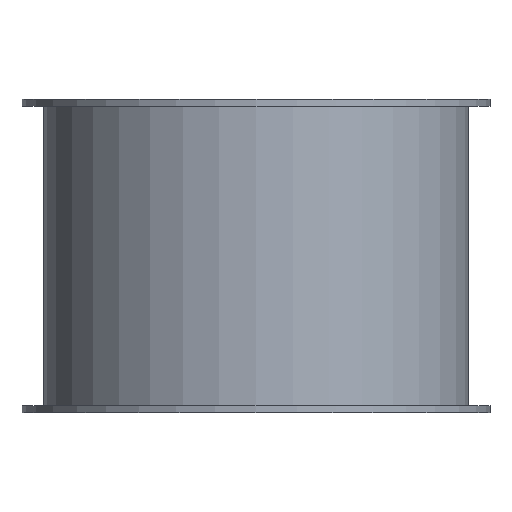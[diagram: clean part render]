
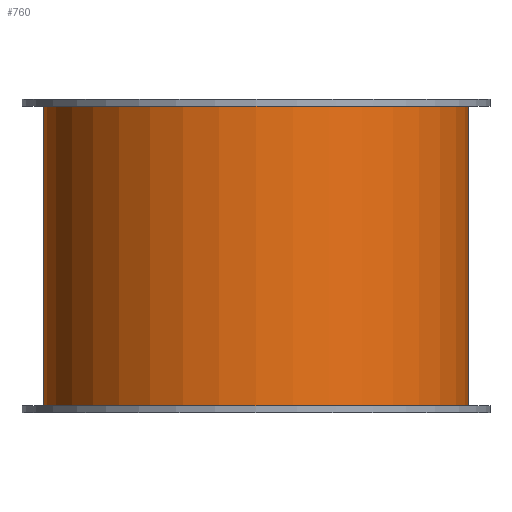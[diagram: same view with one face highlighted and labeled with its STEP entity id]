
A CAD part, front view. The second image highlights one B-rep face of the part: STEP entity #760.
In plain terms, the highlighted cylindrical face has radius 29.8 mm (diameter 59.6 mm), a partial arc.
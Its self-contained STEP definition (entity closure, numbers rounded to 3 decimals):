
#54 = DIRECTION ( 'NONE',  ( 0., 0., 1. ) ) ;
#68 = LINE ( 'NONE', #451, #394 ) ;
#101 = CIRCLE ( 'NONE', #604, 29.8 ) ;
#115 = EDGE_CURVE ( 'NONE', #670, #1214, #1227, .T. ) ;
#191 = VERTEX_POINT ( 'NONE', #749 ) ;
#197 = ORIENTED_EDGE ( 'NONE', *, *, #547, .F. ) ;
#253 = DIRECTION ( 'NONE',  ( 1., 0., 0. ) ) ;
#290 = ORIENTED_EDGE ( 'NONE', *, *, #1109, .F. ) ;
#394 = VECTOR ( 'NONE', #834, 1000. ) ;
#405 = CARTESIAN_POINT ( 'NONE',  ( 0., 0., 0. ) ) ;
#424 = LINE ( 'NONE', #1199, #862 ) ;
#427 = DIRECTION ( 'NONE',  ( -1., 0., 0. ) ) ;
#451 = CARTESIAN_POINT ( 'NONE',  ( 29.8, 0., -32. ) ) ;
#474 = CARTESIAN_POINT ( 'NONE',  ( 29.8, 0., 0. ) ) ;
#510 = DIRECTION ( 'NONE',  ( 1., 0., 0. ) ) ;
#514 = DIRECTION ( 'NONE',  ( 0., 0., -1. ) ) ;
#547 = EDGE_CURVE ( 'NONE', #191, #1012, #101, .T. ) ;
#560 = DIRECTION ( 'NONE',  ( 0., 0., 1. ) ) ;
#604 = AXIS2_PLACEMENT_3D ( 'NONE', #993, #514, #427 ) ;
#670 = VERTEX_POINT ( 'NONE', #1071 ) ;
#687 = AXIS2_PLACEMENT_3D ( 'NONE', #737, #560, #253 ) ;
#691 = EDGE_LOOP ( 'NONE', ( #290, #197, #935, #1077 ) ) ;
#737 = CARTESIAN_POINT ( 'NONE',  ( 0., 0., -32. ) ) ;
#749 = CARTESIAN_POINT ( 'NONE',  ( 29.8, 0., -42. ) ) ;
#751 = FACE_OUTER_BOUND ( 'NONE', #691, .T. ) ;
#760 = ADVANCED_FACE ( 'NONE', ( #751 ), #1030, .T. ) ;
#834 = DIRECTION ( 'NONE',  ( 0., 0., 1. ) ) ;
#862 = VECTOR ( 'NONE', #54, 1000. ) ;
#935 = ORIENTED_EDGE ( 'NONE', *, *, #1243, .T. ) ;
#978 = AXIS2_PLACEMENT_3D ( 'NONE', #405, #1088, #510 ) ;
#993 = CARTESIAN_POINT ( 'NONE',  ( 0., 0., -42. ) ) ;
#1012 = VERTEX_POINT ( 'NONE', #1123 ) ;
#1030 = CYLINDRICAL_SURFACE ( 'NONE', #687, 29.8 ) ;
#1071 = CARTESIAN_POINT ( 'NONE',  ( -29.8, 0., 0. ) ) ;
#1077 = ORIENTED_EDGE ( 'NONE', *, *, #115, .F. ) ;
#1088 = DIRECTION ( 'NONE',  ( 0., 0., 1. ) ) ;
#1109 = EDGE_CURVE ( 'NONE', #1012, #670, #424, .T. ) ;
#1123 = CARTESIAN_POINT ( 'NONE',  ( -29.8, 0., -42. ) ) ;
#1199 = CARTESIAN_POINT ( 'NONE',  ( -29.8, 0., -32. ) ) ;
#1214 = VERTEX_POINT ( 'NONE', #474 ) ;
#1227 = CIRCLE ( 'NONE', #978, 29.8 ) ;
#1243 = EDGE_CURVE ( 'NONE', #191, #1214, #68, .T. ) ;
